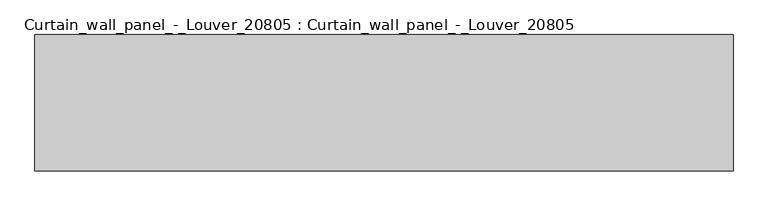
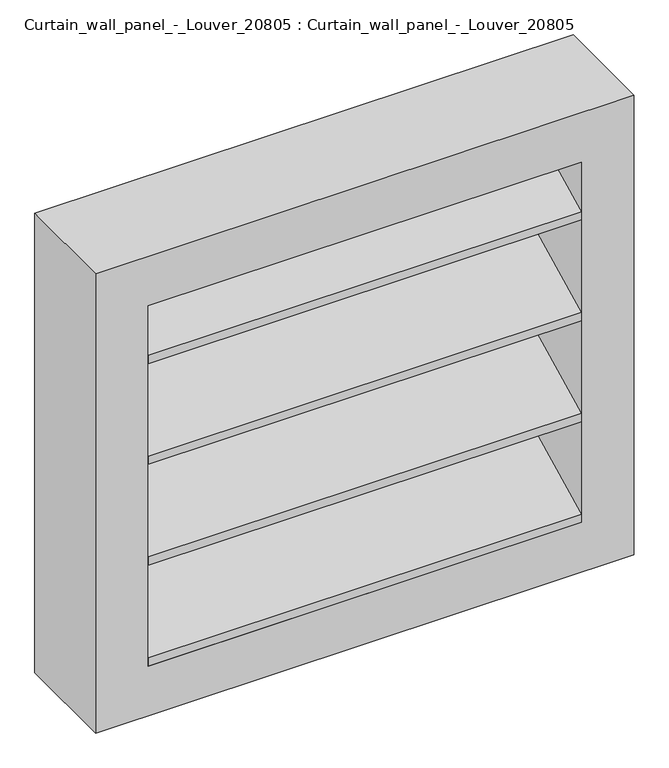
"""IFC4 building model written with IfcOpenShell, lengths in millimetres: plate geometry, Curtain_wall_panel_-_Louver_20805 : Curtain_wall_panel_-_Louver_20805."""

from ifc_helpers import new_model, si_unit, frame, origin, place, context, project, spatial, polyline, outline, extrude, source, transform, mapped, element, save


def curtain_wall_panel_louver_20805_curtain_wall_panel_louver_392ec3e4(model_context):
    return source(origin(), model_context, "Body", "SweptSolid", [
        extrude(outline(polyline([(200.0, 605.2950441), (0.0, 505.910046), (0.0, 522.6599789), (200.0, 622.044977), (200.0, 605.2950441)])), frame((-412.7500001, 0.0, 0.0), z_axis=(1.0, 0.0, 0.0), x_axis=(0.0, 1.0, 0.0)), (0.0, 0.0, 1.0), 825.5000001),
        extrude(outline(polyline([(200.0, 402.3400211), (0.0, 302.955023), (0.0, 319.7049559), (200.0, 419.089954), (200.0, 402.3400211)])), frame((-412.7500001, 0.0, 0.0), z_axis=(1.0, 0.0, 0.0), x_axis=(0.0, 1.0, 0.0)), (0.0, 0.0, 1.0), 825.5000001),
        extrude(outline(polyline([(200.0, 808.2500672), (0.0, 708.8650691), (0.0, 725.6150019), (200.0, 825.0), (200.0, 808.2500672)])), frame((-412.7500001, 0.0, 0.0), z_axis=(1.0, 0.0, 0.0), x_axis=(0.0, 1.0, 0.0)), (0.0, 0.0, 1.0), 825.5000001),
        extrude(outline(polyline([(200.0, 199.3849981), (0.0, 100.0), (0.0, 116.7499328), (200.0, 216.1349309), (200.0, 199.3849981)])), frame((-412.7500001, 0.0, 0.0), z_axis=(1.0, 0.0, 0.0), x_axis=(0.0, 1.0, 0.0)), (0.0, 0.0, 1.0), 825.5000001),
        extrude(outline(polyline([(925.0, -512.7500001), (0.0, -512.7500001), (0.0, 512.7500001), (925.0, 512.7500001), (925.0, -512.7500001)]), holes=[polyline([(825.0, -412.7500001), (825.0, 412.7500001), (100.0, 412.7500001), (100.0, -412.7500001), (825.0, -412.7500001)])]), frame((0.0, 0.0, 0.0), z_axis=(0.0, 1.0, 0.0), x_axis=(0.0, 0.0, 1.0)), (0.0, 0.0, 1.0), 200.0),
    ])


if __name__ == "__main__":
    model = new_model("IFC4")
    model_context = context("Model", 3, world=origin())
    ifc_project = project(units=[si_unit("LENGTHUNIT", "METRE", prefix="MILLI")], contexts=[model_context])
    site = spatial("IfcSite", under=ifc_project)
    building = spatial("IfcBuilding", under=site)
    placement = place(None, origin())
    curtain_wall_panel_louver_20805_curtain_wall_panel_louver_shape = curtain_wall_panel_louver_20805_curtain_wall_panel_louver_392ec3e4(model_context)
    element("IfcPlate", 1, ObjectType="Curtain_wall_panel_-_Louver_20805 : Curtain_wall_panel_-_Louver_20805", at=placement, inside=building, context=model_context, shape_type="MappedRepresentation", body=[
        mapped(curtain_wall_panel_louver_20805_curtain_wall_panel_louver_shape, transform((0.0, 0.0, 0.0), x_axis=(1.0, 0.0, 0.0), y_axis=(0.0, 1.0, 0.0), z_axis=(0.0, 0.0, 1.0))),
    ])
    save(model, "model.ifc")
